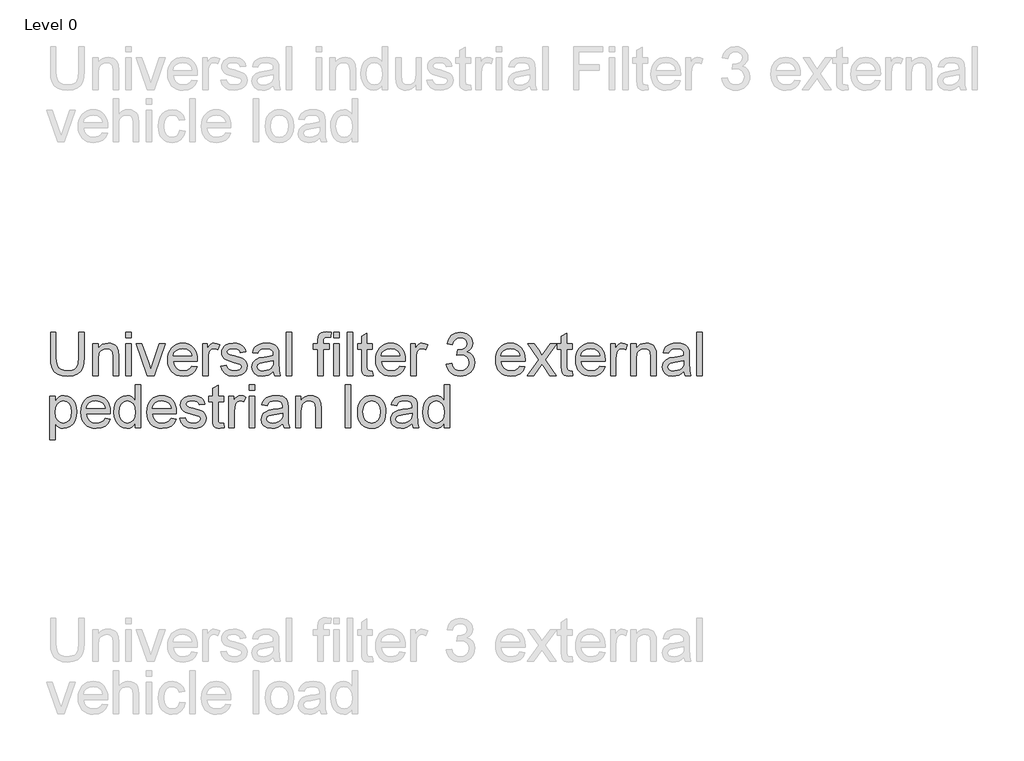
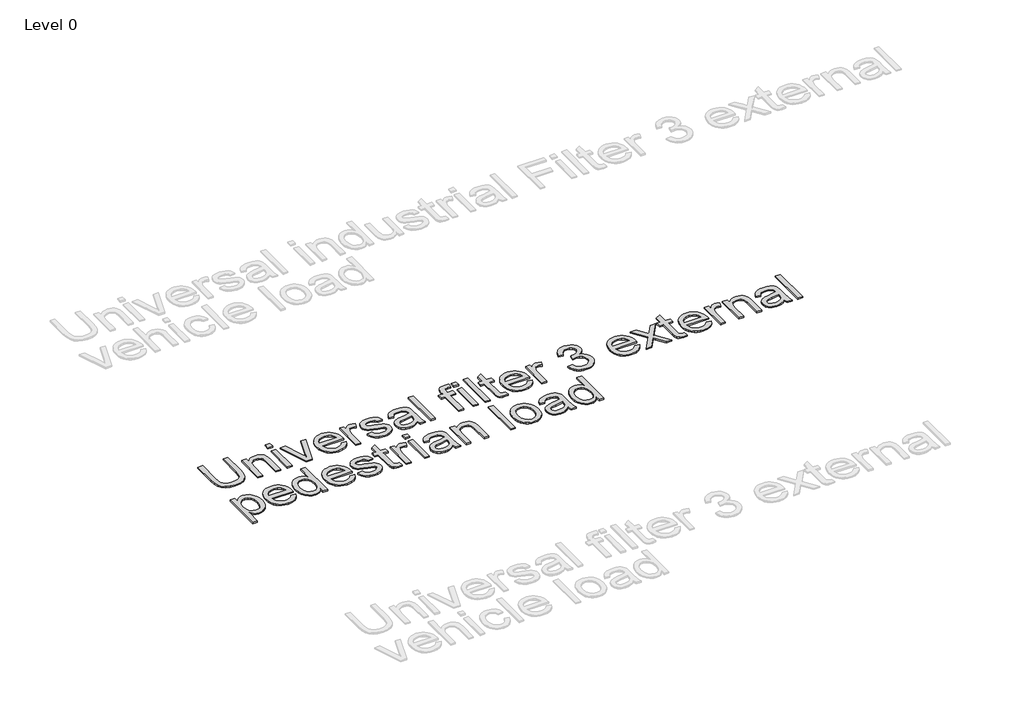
# One storey, part 4 of 10: 1 proxy.
"""IFC4 building model written with IfcOpenShell, lengths in millimetres."""

from ifc_helpers import new_model, si_unit, origin, origin_with_axes, place, context, project, spatial, polyline, outline, extrude, element, save

model = new_model("IFC4")

# Units and contexts
model_context = context("Model", 3, world=origin())
ifc_project = project(units=[si_unit("LENGTHUNIT", "METRE", prefix="MILLI")], contexts=[model_context])

# Site, building, storey
site = spatial("IfcSite", under=ifc_project)
building = spatial("IfcBuilding", under=site)
storey = spatial("IfcBuildingStorey", under=building, Name="Level 0", Elevation=0.0)

# Proxy
placement = place(None, origin())
element("IfcBuildingElementProxy", 1, Name="300mm Arial", ObjectType="300mm Arial", at=placement, inside=storey, context=model_context, shape_type="SweptSolid", body=[
    extrude(outline(polyline([(-15184.5419373, 6728.4409706), (-15146.870821, 6728.4409706), (-15146.870821, 6554.5799397), (-15149.4276009, 6513.8645999), (-15157.0979405, 6482.5118569), (-15171.4269442, 6458.3236157), (-15193.9597164, 6439.1017814), (-15224.7514394, 6426.5478084), (-15263.8572955, 6422.3631507), (-15302.1078259, 6426.0051824), (-15332.6880168, 6436.9312777), (-15355.6070651, 6454.7643574), (-15370.8741679, 6479.1273425), (-15379.4550154, 6511.8044607), (-15382.3152979, 6554.5799397), (-15382.3152979, 6728.4409706), (-15344.6441816, 6728.4409706), (-15344.6441816, 6555.9043149), (-15342.7863776, 6522.0499743), (-15337.2129653, 6498.4779355), (-15327.1146046, 6482.1531719), (-15311.6819549, 6470.0406572), (-15291.5588097, 6462.5358645), (-15267.3889627, 6460.034267), (-15229.0740529, 6464.9822798), (-15214.7312536, 6471.1672958), (-15203.5982247, 6479.8263183), (-15195.261099, 6492.0032123), (-15189.3060092, 6508.7418431), (-15184.5419373, 6555.9043149), (-15184.5419373, 6728.4409706)])), origin_with_axes(), (0.0, 0.0, 1.0), 10.0),
    extrude(outline(polyline([(-15085.655257, 6427.0720402), (-15085.655257, 6648.3898485), (-15047.9841407, 6648.3898485), (-15047.9841407, 6617.4877609), (-15034.8967388, 6633.0675634), (-15019.1789805, 6644.1959938), (-15000.830866, 6650.873052), (-14979.8523952, 6653.098738), (-14961.2835515, 6651.3053133), (-14944.2782063, 6645.9250391), (-14930.0963554, 6637.6293001), (-14919.9979946, 6627.089481), (-14908.7040174, 6599.3879667), (-14906.7174546, 6562.9676492), (-14906.7174546, 6427.0720402), (-14944.3885709, 6427.0720402), (-14944.3885709, 6557.8908777), (-14948.7295784, 6591.2209864), (-14954.735252, 6601.1446033), (-14964.0702576, 6608.842534), (-14976.0356195, 6613.7813498), (-14989.9323619, 6615.4276217), (-15011.9960846, 6611.7304077), (-15030.8040516, 6600.6387655), (-15038.3203406, 6591.5842699), (-15043.6891184, 6579.2096393), (-15047.9841407, 6544.4999731), (-15047.9841407, 6427.0720402), (-15085.655257, 6427.0720402)])), origin_with_axes(), (0.0, 0.0, 1.0), 10.0),
    extrude(outline(polyline([(-14854.9196697, 6690.7698543), (-14854.9196697, 6728.4409706), (-14817.2485534, 6728.4409706), (-14817.2485534, 6690.7698543), (-14854.9196697, 6690.7698543)])), origin_with_axes(), (0.0, 0.0, 1.0), 10.0),
    extrude(outline(polyline([(-14854.9196697, 6427.0720402), (-14854.9196697, 6648.3898485), (-14817.2485534, 6648.3898485), (-14817.2485534, 6427.0720402), (-14854.9196697, 6427.0720402)])), origin_with_axes(), (0.0, 0.0, 1.0), 10.0),
    extrude(outline(polyline([(-14706.4424964, 6427.0720402), (-14784.2863266, 6648.3898485), (-14744.4079183, 6648.3898485), (-14697.2454465, 6515.8051774), (-14683.0452015, 6471.2178796), (-14669.1392621, 6513.3035799), (-14621.6824847, 6648.3898485), (-14581.8040764, 6648.3898485), (-14658.6914134, 6427.0720402), (-14706.4424964, 6427.0720402)])), origin_with_axes(), (0.0, 0.0, 1.0), 10.0),
    extrude(outline(polyline([(-14393.8899533, 6492.9964937), (-14356.954601, 6488.2876042), (-14370.2627322, 6460.4573313), (-14391.4987203, 6439.6536044), (-14420.1843189, 6426.6857641), (-14455.8412813, 6422.3631507), (-14479.2155836, 6424.2278525), (-14500.042303, 6429.8219581), (-14518.3214397, 6439.1454674), (-14534.0529935, 6452.1983805), (-14546.7035356, 6468.6174138), (-14555.7396371, 6488.0392838), (-14561.161298, 6510.4639907), (-14562.9685183, 6535.8915344), (-14561.1429039, 6562.1813015), (-14555.6660607, 6585.3532686), (-14546.5379887, 6605.4074359), (-14533.7586879, 6622.3438032), (-14518.0685208, 6635.7990872), (-14500.2078499, 6645.4100043), (-14480.1766753, 6651.1765546), (-14457.9749969, 6653.098738), (-14436.4883891, 6651.1811531), (-14417.057322, 6645.4283984), (-14399.6817955, 6635.8404739), (-14384.3618096, 6622.4173796), (-14371.8561211, 6605.5178005), (-14362.9234864, 6585.5004214), (-14357.5639055, 6562.3652424), (-14355.7773786, 6536.1122636), (-14355.9981078, 6525.9587205), (-14525.297402, 6525.9587205), (-14518.7766936, 6497.7605656), (-14503.6291525, 6477.0304151), (-14481.7677649, 6464.283304), (-14455.1055173, 6460.034267), (-14435.0559486, 6462.0024356), (-14418.170165, 6467.9069417), (-14404.4481666, 6478.115667), (-14393.8899533, 6492.9964937)]), holes=[polyline([(-14525.297402, 6563.6298368), (-14393.4484949, 6563.6298368), (-14398.5436605, 6583.5322527), (-14408.5316567, 6597.769286), (-14430.4942118, 6611.0130378), (-14458.1221497, 6615.4276217), (-14483.5152044, 6611.9051516), (-14504.5120693, 6601.3377413), (-14519.1077874, 6584.865825), (-14525.297402, 6563.6298368)])]), origin_with_axes(), (0.0, 0.0, 1.0), 10.0),
    extrude(outline(polyline([(-14318.1062623, 6427.0720402), (-14318.1062623, 6648.3898485), (-14285.1440355, 6648.3898485), (-14285.1440355, 6615.6483509), (-14272.9671415, 6634.6310619), (-14261.7467406, 6645.8146745), (-14250.4895516, 6651.2777222), (-14238.2022929, 6653.098738), (-14219.4403112, 6650.1924703), (-14200.3840238, 6641.473667), (-14212.9655881, 6607.7020998), (-14226.2093399, 6613.4962413), (-14239.4530917, 6615.4276217), (-14250.7010837, 6613.5698177), (-14260.7534593, 6607.9964054), (-14268.8744543, 6599.1304493), (-14274.3283049, 6587.3950137), (-14278.9084357, 6566.3521636), (-14280.435146, 6543.3963271), (-14280.435146, 6427.0720402), (-14318.1062623, 6427.0720402)])), origin_with_axes(), (0.0, 0.0, 1.0), 10.0),
    extrude(outline(polyline([(-14190.9662448, 6492.9964937), (-14153.2951285, 6497.7053833), (-14147.3538342, 6481.5921519), (-14135.8575219, 6469.7463516), (-14118.732615, 6462.4622881), (-14095.9055372, 6460.034267), (-14073.3543709, 6462.259953), (-14057.4986569, 6468.9370112), (-14048.117666, 6478.6123077), (-14044.9906691, 6489.8327086), (-14048.1360601, 6499.4344286), (-14057.5722333, 6506.7552804), (-14096.3469956, 6517.4974346), (-14153.0743993, 6535.9283226), (-14167.4309941, 6545.1897518), (-14177.8328575, 6557.4494193), (-14184.1512308, 6571.9255758), (-14186.2573552, 6587.8364721), (-14184.5650981, 6602.4321902), (-14179.4883265, 6615.9058683), (-14171.4868931, 6627.7240774), (-14161.0206504, 6637.3533886), (-14137.0715325, 6648.5002131), (-14104.6611287, 6653.098738), (-14080.1417937, 6651.250131), (-14058.8230321, 6645.7043099), (-14041.6797311, 6637.0039007), (-14029.6867781, 6625.6915294), (-14021.740527, 6610.9302643), (-14016.7373319, 6591.883174), (-14054.4084482, 6587.1742845), (-14059.1633229, 6599.0292818), (-14068.571905, 6607.9596172), (-14082.7261647, 6613.5606206), (-14101.7180727, 6615.4276217), (-14123.3495341, 6613.6433941), (-14137.7705083, 6608.290711), (-14145.8823063, 6600.5651891), (-14148.5862389, 6591.6624448), (-14144.0980786, 6580.6995614), (-14130.0449864, 6572.3854283), (-14097.5977944, 6564.3656008), (-14042.3051305, 6546.6336886), (-14027.7002153, 6538.1540086), (-14016.6269673, 6526.5473317), (-14009.6464064, 6511.7768696), (-14007.3195528, 6493.8058341), (-14010.0510766, 6475.2277934), (-14018.245648, 6457.7533986), (-14031.5905674, 6442.7530102), (-14049.773135, 6431.5969887), (-14071.7356901, 6424.6716102), (-14096.420572, 6422.3631507), (-14134.404388, 6426.8145228), (-14162.1242963, 6440.1686392), (-14180.6287607, 6462.2783471), (-14190.9662448, 6492.9964937)])), origin_with_axes(), (0.0, 0.0, 1.0), 10.0),
    extrude(outline(polyline([(-13823.6728608, 6455.3253774), (-13841.6714874, 6439.8927277), (-13860.2035429, 6429.794367), (-13879.6920916, 6424.2209547), (-13900.5601978, 6422.3631507), (-13932.0416995, 6426.8329169), (-13955.2642505, 6440.2422156), (-13969.5840571, 6460.6044841), (-13974.357326, 6485.9331594), (-13972.5547042, 6501.5497501), (-13967.1468389, 6515.731601), (-13958.8051147, 6527.8717069), (-13948.2009161, 6537.3630624), (-13921.8237771, 6549.7238974), (-13889.2294323, 6555.3892801), (-13850.7121874, 6561.3489684), (-13823.89359, 6568.3387263), (-13823.6728608, 6576.7264358), (-13826.2664288, 6593.538643), (-13834.047133, 6604.5383147), (-13851.4479514, 6612.705295), (-13875.6913749, 6615.4276217), (-13898.1321766, 6613.6158029), (-13913.8039496, 6608.1803464), (-13924.4909216, 6598.1279709), (-13931.9773202, 6582.465395), (-13969.6484365, 6587.1742845), (-13963.109334, 6607.7756762), (-13953.3512641, 6623.962484), (-13939.4637188, 6636.3417132), (-13920.5361901, 6645.5203689), (-13897.3872156, 6651.2041458), (-13870.8353326, 6653.098738), (-13845.3687014, 6651.424875), (-13825.181177, 6646.4032857), (-13809.9600594, 6638.8525078), (-13799.3926491, 6629.5910785), (-13792.3844971, 6618.1407514), (-13787.8411545, 6604.0232799), (-13786.0017445, 6571.0610531), (-13786.0017445, 6524.1928869), (-13784.0887581, 6458.74668), (-13776.5839654, 6427.0720402), (-13814.2550817, 6427.0720402), (-13823.6728608, 6455.3253774)]), holes=[polyline([(-13823.6728608, 6530.66761), (-13884.4469664, 6519.1161154), (-13916.8573702, 6513.0092743), (-13931.5358618, 6503.0764604), (-13936.6862097, 6488.5819098), (-13933.8811095, 6477.379903), (-13925.4658088, 6468.2012473), (-13911.6242488, 6462.076012), (-13892.5403703, 6460.034267), (-13872.3068605, 6462.2875442), (-13854.4277956, 6469.0473758), (-13839.933245, 6479.0077809), (-13829.8532783, 6490.8627782), (-13825.3835121, 6503.0764604), (-13823.89359, 6519.9990322), (-13823.6728608, 6530.66761)])]), origin_with_axes(), (0.0, 0.0, 1.0), 10.0),
    extrude(outline(polyline([(-13734.2039596, 6427.0720402), (-13734.2039596, 6728.4409706), (-13696.5328432, 6728.4409706), (-13696.5328432, 6427.0720402), (-13734.2039596, 6427.0720402)])), origin_with_axes(), (0.0, 0.0, 1.0), 10.0),
    extrude(outline(polyline([(-13512.8861513, 6427.0720402), (-13512.8861513, 6610.7187322), (-13545.848378, 6610.7187322), (-13545.848378, 6648.3898485), (-13512.8861513, 6648.3898485), (-13512.8861513, 6670.6834974), (-13508.9130257, 6702.1006198), (-13501.3346566, 6714.6270017), (-13489.6360092, 6724.5414215), (-13473.2652604, 6730.9977505), (-13451.6705873, 6733.1498602), (-13417.3104089, 6729.0295818), (-13422.8286388, 6693.7129103), (-13444.5336766, 6695.4787439), (-13458.8534832, 6693.9152454), (-13468.2620652, 6689.22475), (-13473.4767925, 6680.2668234), (-13475.215035, 6665.9010315), (-13475.215035, 6648.3898485), (-13432.8350291, 6648.3898485), (-13432.8350291, 6610.7187322), (-13475.215035, 6610.7187322), (-13475.215035, 6427.0720402), (-13512.8861513, 6427.0720402)])), origin_with_axes(), (0.0, 0.0, 1.0), 10.0),
    extrude(outline(polyline([(-13399.8728023, 6427.0720402), (-13399.8728023, 6648.3898485), (-13362.201686, 6648.3898485), (-13362.201686, 6427.0720402), (-13399.8728023, 6427.0720402)])), origin_with_axes(), (0.0, 0.0, 1.0), 10.0),
    extrude(outline(polyline([(-13399.8728023, 6690.7698543), (-13399.8728023, 6728.4409706), (-13362.201686, 6728.4409706), (-13362.201686, 6690.7698543), (-13399.8728023, 6690.7698543)])), origin_with_axes(), (0.0, 0.0, 1.0), 10.0),
    extrude(outline(polyline([(-13305.6950116, 6427.0720402), (-13305.6950116, 6728.4409706), (-13268.0238953, 6728.4409706), (-13268.0238953, 6427.0720402), (-13305.6950116, 6427.0720402)])), origin_with_axes(), (0.0, 0.0, 1.0), 10.0),
    extrude(outline(polyline([(-13131.4660987, 6458.4891626), (-13126.7572091, 6425.9683942), (-13154.93697, 6422.3631507), (-13173.01837, 6423.9266491), (-13186.5012451, 6428.6171446), (-13196.0293888, 6435.8460258), (-13202.2465945, 6445.0246816), (-13205.6678971, 6460.7884251), (-13206.8083313, 6487.7725694), (-13206.8083313, 6610.7187322), (-13235.0616685, 6610.7187322), (-13235.0616685, 6648.3898485), (-13206.8083313, 6648.3898485), (-13206.8083313, 6702.1741962), (-13169.137215, 6724.3206923), (-13169.137215, 6648.3898485), (-13131.4660987, 6648.3898485), (-13131.4660987, 6610.7187322), (-13169.137215, 6610.7187322), (-13169.137215, 6488.8762154), (-13167.1506522, 6469.452046), (-13160.7127173, 6462.5726527), (-13147.8736356, 6460.034267), (-13131.4660987, 6458.4891626)])), origin_with_axes(), (0.0, 0.0, 1.0), 10.0),
    extrude(outline(polyline([(-12938.843086, 6492.9964937), (-12901.9077337, 6488.2876042), (-12915.2158648, 6460.4573313), (-12936.451853, 6439.6536044), (-12965.1374516, 6426.6857641), (-13000.794414, 6422.3631507), (-13024.1687162, 6424.2278525), (-13044.9954357, 6429.8219581), (-13063.2745723, 6439.1454674), (-13079.0061261, 6452.1983805), (-13091.6566683, 6468.6174138), (-13100.6927698, 6488.0392838), (-13106.1144307, 6510.4639907), (-13107.921651, 6535.8915344), (-13106.0960366, 6562.1813015), (-13100.6191934, 6585.3532686), (-13091.4911214, 6605.4074359), (-13078.7118205, 6622.3438032), (-13063.0216535, 6635.7990872), (-13045.1609826, 6645.4100043), (-13025.129808, 6651.1765546), (-13002.9281295, 6653.098738), (-12981.4415218, 6651.1811531), (-12962.0104546, 6645.4283984), (-12944.6349281, 6635.8404739), (-12929.3149423, 6622.4173796), (-12916.8092537, 6605.5178005), (-12907.876619, 6585.5004214), (-12902.5170382, 6562.3652424), (-12900.7305113, 6536.1122636), (-12900.9512405, 6525.9587205), (-13070.2505347, 6525.9587205), (-13063.7298263, 6497.7605656), (-13048.5822851, 6477.0304151), (-13026.7208976, 6464.283304), (-13000.05865, 6460.034267), (-12980.0090812, 6462.0024356), (-12963.1232977, 6467.9069417), (-12949.4012992, 6478.115667), (-12938.843086, 6492.9964937)]), holes=[polyline([(-13070.2505347, 6563.6298368), (-12938.4016276, 6563.6298368), (-12943.4967932, 6583.5322527), (-12953.4847894, 6597.769286), (-12975.4473445, 6611.0130378), (-13003.0752823, 6615.4276217), (-13028.4683371, 6611.9051516), (-13049.4652019, 6601.3377413), (-13064.0609201, 6584.865825), (-13070.2505347, 6563.6298368)])]), origin_with_axes(), (0.0, 0.0, 1.0), 10.0),
    extrude(outline(polyline([(-12863.059395, 6427.0720402), (-12863.059395, 6648.3898485), (-12830.0971682, 6648.3898485), (-12830.0971682, 6615.6483509), (-12817.9202742, 6634.6310619), (-12806.6998733, 6645.8146745), (-12795.4426843, 6651.2777222), (-12783.1554256, 6653.098738), (-12764.3934439, 6650.1924703), (-12745.3371565, 6641.473667), (-12757.9187208, 6607.7020998), (-12771.1624726, 6613.4962413), (-12784.4062244, 6615.4276217), (-12795.6542164, 6613.5698177), (-12805.7065919, 6607.9964054), (-12813.827587, 6599.1304493), (-12819.2814376, 6587.3950137), (-12823.8615684, 6566.3521636), (-12825.3882787, 6543.3963271), (-12825.3882787, 6427.0720402), (-12863.059395, 6427.0720402)])), origin_with_axes(), (0.0, 0.0, 1.0), 10.0),
    extrude(outline(polyline([(-12613.4882494, 6507.1231623), (-12575.8171331, 6511.8320519), (-12567.3834384, 6488.1588455), (-12555.0318004, 6472.1743728), (-12538.1552139, 6463.0692934), (-12516.1466735, 6460.034267), (-12490.3213575, 6464.2097276), (-12470.3821533, 6476.7361095), (-12457.6350422, 6495.4245149), (-12453.3860051, 6518.0860458), (-12457.598254, 6539.5979455), (-12470.2350005, 6557.0447491), (-12489.3648643, 6568.6054408), (-12513.0564648, 6572.4590047), (-12539.470392, 6568.3387263), (-12535.2765373, 6606.0098427), (-12529.2432726, 6605.5683843), (-12506.6737121, 6608.2723169), (-12486.4953847, 6616.3841149), (-12472.2583515, 6630.1061133), (-12467.5126738, 6649.6406473), (-12470.9523704, 6665.9102285), (-12481.2714604, 6679.1079951), (-12497.0168098, 6687.8543895), (-12516.7352847, 6690.7698543), (-12536.4905479, 6687.8267984), (-12552.6405674, 6678.9976305), (-12564.4311854, 6664.2823507), (-12571.1082436, 6643.680959), (-12608.7793599, 6648.3898485), (-12597.6877178, 6682.216598), (-12577.9508487, 6707.4716969), (-12550.9483103, 6723.1986522), (-12518.0596599, 6728.4409706), (-12494.3772565, 6725.8565996), (-12472.6262335, 6718.1034866), (-12454.287316, 6705.8714102), (-12440.8412291, 6689.8501494), (-12432.5914754, 6671.3916702), (-12429.8415575, 6651.8479393), (-12432.4535196, 6633.6377805), (-12440.2894061, 6617.1198789), (-12453.2388524, 6603.0483926), (-12471.1914937, 6592.1774796), (-12447.6102578, 6582.649336), (-12430.1358631, 6566.42574), (-12419.3201324, 6544.3896085), (-12415.7148888, 6517.4238582), (-12417.5175106, 6498.3123886), (-12422.9253759, 6480.7092351), (-12431.9384848, 6464.6143978), (-12444.5568373, 6450.0278767), (-12459.9297061, 6437.9245591), (-12477.2063643, 6429.2793322), (-12496.3868119, 6424.092196), (-12517.4710487, 6422.3631507), (-12536.5273361, 6423.8392772), (-12553.8913662, 6428.2676567), (-12569.5631392, 6435.6482892), (-12583.542655, 6445.9811747), (-12595.2642951, 6458.659308), (-12604.1624409, 6473.0756837), (-12610.2370923, 6489.2303018), (-12613.4882494, 6507.1231623)])), origin_with_axes(), (0.0, 0.0, 1.0), 10.0),
    extrude(outline(polyline([(-12100.6607482, 6492.9964937), (-12063.7253959, 6488.2876042), (-12077.033527, 6460.4573313), (-12098.2695152, 6439.6536044), (-12126.9551138, 6426.6857641), (-12162.6120762, 6422.3631507), (-12185.9863784, 6424.2278525), (-12206.8130979, 6429.8219581), (-12225.0922345, 6439.1454674), (-12240.8237883, 6452.1983805), (-12253.4743304, 6468.6174138), (-12262.510432, 6488.0392838), (-12267.9320929, 6510.4639907), (-12269.7393132, 6535.8915344), (-12267.9136988, 6562.1813015), (-12262.4368556, 6585.3532686), (-12253.3087835, 6605.4074359), (-12240.5294827, 6622.3438032), (-12224.8393156, 6635.7990872), (-12206.9786448, 6645.4100043), (-12186.9474701, 6651.1765546), (-12164.7457917, 6653.098738), (-12143.259184, 6651.1811531), (-12123.8281168, 6645.4283984), (-12106.4525903, 6635.8404739), (-12091.1326045, 6622.4173796), (-12078.6269159, 6605.5178005), (-12069.6942812, 6585.5004214), (-12064.3347004, 6562.3652424), (-12062.5481735, 6536.1122636), (-12062.7689027, 6525.9587205), (-12232.0681968, 6525.9587205), (-12225.5474885, 6497.7605656), (-12210.3999473, 6477.0304151), (-12188.5385598, 6464.283304), (-12161.8763122, 6460.034267), (-12141.8267434, 6462.0024356), (-12124.9409599, 6467.9069417), (-12111.2189614, 6478.115667), (-12100.6607482, 6492.9964937)]), holes=[polyline([(-12232.0681968, 6563.6298368), (-12100.2192898, 6563.6298368), (-12105.3144554, 6583.5322527), (-12115.3024516, 6597.769286), (-12137.2650067, 6611.0130378), (-12164.8929445, 6615.4276217), (-12190.2859992, 6611.9051516), (-12211.2828641, 6601.3377413), (-12225.8785823, 6584.865825), (-12232.0681968, 6563.6298368)])]), origin_with_axes(), (0.0, 0.0, 1.0), 10.0),
    extrude(outline(polyline([(-12048.4215049, 6427.0720402), (-11967.9289243, 6538.3195555), (-12043.7126153, 6648.3898485), (-11998.3895535, 6648.3898485), (-11961.8220832, 6595.4148412), (-11944.7523586, 6570.3988655), (-11929.9635024, 6590.8531045), (-11888.3192606, 6648.3898485), (-11842.9961988, 6648.3898485), (-11922.6058625, 6538.3195555), (-11845.9392547, 6427.0720402), (-11891.2623165, 6427.0720402), (-11937.3947187, 6493.9529869), (-11945.8560046, 6506.1666692), (-12003.0984431, 6427.0720402), (-12048.4215049, 6427.0720402)])), origin_with_axes(), (0.0, 0.0, 1.0), 10.0),
    extrude(outline(polyline([(-11732.9259058, 6458.4891626), (-11728.2170163, 6425.9683942), (-11756.3967771, 6422.3631507), (-11774.4781771, 6423.9266491), (-11787.9610523, 6428.6171446), (-11797.4891959, 6435.8460258), (-11803.7064017, 6445.0246816), (-11807.1277042, 6460.7884251), (-11808.2681384, 6487.7725694), (-11808.2681384, 6610.7187322), (-11836.5214756, 6610.7187322), (-11836.5214756, 6648.3898485), (-11808.2681384, 6648.3898485), (-11808.2681384, 6702.1741962), (-11770.5970221, 6724.3206923), (-11770.5970221, 6648.3898485), (-11732.9259058, 6648.3898485), (-11732.9259058, 6610.7187322), (-11770.5970221, 6610.7187322), (-11770.5970221, 6488.8762154), (-11768.6104593, 6469.452046), (-11762.1725244, 6462.5726527), (-11749.3334428, 6460.034267), (-11732.9259058, 6458.4891626)])), origin_with_axes(), (0.0, 0.0, 1.0), 10.0),
    extrude(outline(polyline([(-11540.3028931, 6492.9964937), (-11503.3675408, 6488.2876042), (-11516.675672, 6460.4573313), (-11537.9116602, 6439.6536044), (-11566.5972587, 6426.6857641), (-11602.2542211, 6422.3631507), (-11625.6285234, 6424.2278525), (-11646.4552428, 6429.8219581), (-11664.7343795, 6439.1454674), (-11680.4659333, 6452.1983805), (-11693.1164754, 6468.6174138), (-11702.1525769, 6488.0392838), (-11707.5742378, 6510.4639907), (-11709.3814581, 6535.8915344), (-11707.5558437, 6562.1813015), (-11702.0790005, 6585.3532686), (-11692.9509285, 6605.4074359), (-11680.1716277, 6622.3438032), (-11664.4814606, 6635.7990872), (-11646.6207897, 6645.4100043), (-11626.5896151, 6651.1765546), (-11604.3879367, 6653.098738), (-11582.9013289, 6651.1811531), (-11563.4702618, 6645.4283984), (-11546.0947353, 6635.8404739), (-11530.7747494, 6622.4173796), (-11518.2690609, 6605.5178005), (-11509.3364262, 6585.5004214), (-11503.9768454, 6562.3652424), (-11502.1903184, 6536.1122636), (-11502.4110476, 6525.9587205), (-11671.7103418, 6525.9587205), (-11665.1896334, 6497.7605656), (-11650.0420923, 6477.0304151), (-11628.1807047, 6464.283304), (-11601.5184571, 6460.034267), (-11581.4688884, 6462.0024356), (-11564.5831048, 6467.9069417), (-11550.8611064, 6478.115667), (-11540.3028931, 6492.9964937)]), holes=[polyline([(-11671.7103418, 6563.6298368), (-11539.8614347, 6563.6298368), (-11544.9566004, 6583.5322527), (-11554.9445965, 6597.769286), (-11576.9071516, 6611.0130378), (-11604.5350895, 6615.4276217), (-11629.9281442, 6611.9051516), (-11650.9250091, 6601.3377413), (-11665.5207272, 6584.865825), (-11671.7103418, 6563.6298368)])]), origin_with_axes(), (0.0, 0.0, 1.0), 10.0),
    extrude(outline(polyline([(-11464.5192021, 6427.0720402), (-11464.5192021, 6648.3898485), (-11431.5569753, 6648.3898485), (-11431.5569753, 6615.6483509), (-11419.3800813, 6634.6310619), (-11408.1596805, 6645.8146745), (-11396.9024914, 6651.2777222), (-11384.6152328, 6653.098738), (-11365.853251, 6650.1924703), (-11346.7969637, 6641.473667), (-11359.3785279, 6607.7020998), (-11372.6222797, 6613.4962413), (-11385.8660315, 6615.4276217), (-11397.1140235, 6613.5698177), (-11407.1663991, 6607.9964054), (-11415.2873941, 6599.1304493), (-11420.7412447, 6587.3950137), (-11425.3213755, 6566.3521636), (-11426.8480858, 6543.3963271), (-11426.8480858, 6427.0720402), (-11464.5192021, 6427.0720402)])), origin_with_axes(), (0.0, 0.0, 1.0), 10.0),
    extrude(outline(polyline([(-11323.252516, 6427.0720402), (-11323.252516, 6648.3898485), (-11285.5813997, 6648.3898485), (-11285.5813997, 6617.4877609), (-11272.4939977, 6633.0675634), (-11256.7762394, 6644.1959938), (-11238.4281249, 6650.873052), (-11217.4496542, 6653.098738), (-11198.8808104, 6651.3053133), (-11181.8754652, 6645.9250391), (-11167.6936143, 6637.6293001), (-11157.5952535, 6627.089481), (-11146.3012763, 6599.3879667), (-11144.3147135, 6562.9676492), (-11144.3147135, 6427.0720402), (-11181.9858298, 6427.0720402), (-11181.9858298, 6557.8908777), (-11186.3268374, 6591.2209864), (-11192.3325109, 6601.1446033), (-11201.6675166, 6608.842534), (-11213.6328785, 6613.7813498), (-11227.5296208, 6615.4276217), (-11249.5933435, 6611.7304077), (-11268.4013105, 6600.6387655), (-11275.9175995, 6591.5842699), (-11281.2863774, 6579.2096393), (-11285.5813997, 6544.4999731), (-11285.5813997, 6427.0720402), (-11323.252516, 6427.0720402)])), origin_with_axes(), (0.0, 0.0, 1.0), 10.0),
    extrude(outline(polyline([(-10951.2502424, 6455.3253774), (-10969.2488691, 6439.8927277), (-10987.7809246, 6429.794367), (-11007.2694733, 6424.2209547), (-11028.1375794, 6422.3631507), (-11059.6190812, 6426.8329169), (-11082.8416321, 6440.2422156), (-11097.1614388, 6460.6044841), (-11101.9347077, 6485.9331594), (-11100.1320859, 6501.5497501), (-11094.7242206, 6515.731601), (-11086.3824963, 6527.8717069), (-11075.7782978, 6537.3630624), (-11049.4011588, 6549.7238974), (-11016.806814, 6555.3892801), (-10978.2895691, 6561.3489684), (-10951.4709716, 6568.3387263), (-10951.2502424, 6576.7264358), (-10953.8438105, 6593.538643), (-10961.6245147, 6604.5383147), (-10979.0253331, 6612.705295), (-11003.2687566, 6615.4276217), (-11025.7095583, 6613.6158029), (-11041.3813313, 6608.1803464), (-11052.0683032, 6598.1279709), (-11059.5547018, 6582.465395), (-11097.2258181, 6587.1742845), (-11090.6867157, 6607.7756762), (-11080.9286457, 6623.962484), (-11067.0411004, 6636.3417132), (-11048.1135718, 6645.5203689), (-11024.9645972, 6651.2041458), (-10998.4127142, 6653.098738), (-10972.9460831, 6651.424875), (-10952.7585586, 6646.4032857), (-10937.5374411, 6638.8525078), (-10926.9700308, 6629.5910785), (-10919.9618788, 6618.1407514), (-10915.4185361, 6604.0232799), (-10913.5791261, 6571.0610531), (-10913.5791261, 6524.1928869), (-10911.6661398, 6458.74668), (-10904.1613471, 6427.0720402), (-10941.8324634, 6427.0720402), (-10951.2502424, 6455.3253774)]), holes=[polyline([(-10951.2502424, 6530.66761), (-11012.024348, 6519.1161154), (-11044.4347518, 6513.0092743), (-11059.1132434, 6503.0764604), (-11064.2635914, 6488.5819098), (-11061.4584911, 6477.379903), (-11053.0431905, 6468.2012473), (-11039.2016304, 6462.076012), (-11020.1177519, 6460.034267), (-10999.8842422, 6462.2875442), (-10982.0051772, 6469.0473758), (-10967.5106266, 6479.0077809), (-10957.43066, 6490.8627782), (-10952.9608937, 6503.0764604), (-10951.4709716, 6519.9990322), (-10951.2502424, 6530.66761)])]), origin_with_axes(), (0.0, 0.0, 1.0), 10.0),
    extrude(outline(polyline([(-10861.7813412, 6427.0720402), (-10861.7813412, 6728.4409706), (-10824.1102249, 6728.4409706), (-10824.1102249, 6427.0720402), (-10861.7813412, 6427.0720402)])), origin_with_axes(), (0.0, 0.0, 1.0), 10.0),
    extrude(outline(polyline([(-15387.0241875, 5976.387575), (-15387.0241875, 6282.465395), (-15349.3530712, 6282.465395), (-15349.3530712, 6245.5300426), (-15337.0658125, 6263.7493985), (-15323.3070259, 6276.763224), (-15307.2673709, 6284.5715194), (-15288.1375072, 6287.1742845), (-15262.661679, 6283.5322527), (-15240.3864242, 6272.6061575), (-15222.2498418, 6255.0581863), (-15209.190031, 6231.5505268), (-15201.2989622, 6203.7938303), (-15198.668606, 6173.498748), (-15201.6392531, 6141.2814823), (-15210.5511944, 6112.467125), (-15225.1193214, 6088.5180071), (-15245.0585255, 6070.8964595), (-15268.2810765, 6060.0531377), (-15292.6992439, 6056.4386971), (-15310.0172888, 6058.8575212), (-15325.4775297, 6066.1139936), (-15338.7120845, 6077.06768), (-15349.3530712, 6090.5781463), (-15349.3530712, 5976.387575), (-15387.0241875, 5976.387575)]), holes=[polyline([(-15349.3530712, 6170.0406572), (-15345.2787781, 6136.2690901), (-15333.0558988, 6112.651066), (-15315.020484, 6098.7451266), (-15293.5085843, 6094.1098134), (-15271.6471967, 6098.9106735), (-15253.1519294, 6113.3132536), (-15240.5427741, 6137.7958004), (-15236.3397223, 6172.8365604), (-15240.4416065, 6206.4241866), (-15252.7472592, 6230.3733044), (-15270.7550829, 6244.7207023), (-15291.9634799, 6249.5031682), (-15313.2546504, 6244.4171996), (-15331.9522528, 6229.1592939), (-15345.0028666, 6204.2076975), (-15349.3530712, 6170.0406572)])]), origin_with_axes(), (0.0, 0.0, 1.0), 10.0),
    extrude(outline(polyline([(-15001.3367037, 6127.0720402), (-14964.4013514, 6122.3631507), (-14977.7094826, 6094.5328777), (-14998.9454708, 6073.7291509), (-15027.6310693, 6060.7613106), (-15063.2880317, 6056.4386971), (-15086.662334, 6058.303399), (-15107.4890535, 6063.8975046), (-15125.7681901, 6073.2210139), (-15141.4997439, 6086.2739269), (-15154.150286, 6102.6929602), (-15163.1863875, 6122.1148303), (-15168.6080484, 6144.5395372), (-15170.4152687, 6169.9670808), (-15168.5896543, 6196.2568479), (-15163.1128111, 6219.4288151), (-15153.9847391, 6239.4829823), (-15141.2054383, 6256.4193497), (-15125.5152712, 6269.8746337), (-15107.6546003, 6279.4855508), (-15087.6234257, 6285.2521011), (-15065.4217473, 6287.1742845), (-15043.9351395, 6285.2566996), (-15024.5040724, 6279.5039449), (-15007.1285459, 6269.9160204), (-14991.8085601, 6256.4929261), (-14979.3028715, 6239.5933469), (-14970.3702368, 6219.5759679), (-14965.010656, 6196.4407889), (-14963.224129, 6170.18781), (-14963.4448582, 6160.034267), (-15132.7441524, 6160.034267), (-15126.2234441, 6131.836112), (-15111.0759029, 6111.1059616), (-15089.2145153, 6098.3588505), (-15062.5522677, 6094.1098134), (-15042.502699, 6096.0779821), (-15025.6169154, 6101.9824881), (-15011.894917, 6112.1912135), (-15001.3367037, 6127.0720402)]), holes=[polyline([(-15132.7441524, 6197.7053833), (-15000.8952453, 6197.7053833), (-15005.990411, 6217.6077992), (-15015.9784072, 6231.8448324), (-15037.9409623, 6245.0885843), (-15065.5689001, 6249.5031682), (-15090.9619548, 6245.9806981), (-15111.9588197, 6235.4132878), (-15126.5545379, 6218.9413714), (-15132.7441524, 6197.7053833)])]), origin_with_axes(), (0.0, 0.0, 1.0), 10.0),
    extrude(outline(polyline([(-14788.9952161, 6061.1475867), (-14788.9952161, 6096.6849874), (-14800.2662008, 6079.0772354), (-14813.9192213, 6066.5002697), (-14829.9542778, 6058.9540903), (-14848.3713701, 6056.4386971), (-14872.7251582, 6060.0807289), (-14895.0188071, 6071.0068241), (-14913.8911535, 6088.4536278), (-14927.9810339, 6111.6577846), (-14936.7550195, 6139.6811956), (-14939.6796814, 6171.5857616), (-14936.9849457, 6203.0948545), (-14928.9007389, 6231.5505268), (-14915.4362579, 6255.3340978), (-14896.6006997, 6272.8268867), (-14873.8196072, 6283.587435), (-14848.5185229, 6287.1742845), (-14830.087635, 6284.6083076), (-14813.7904626, 6276.9103768), (-14799.9764937, 6265.1105618), (-14788.9952161, 6250.2389322), (-14788.9952161, 6362.5165171), (-14751.3240998, 6362.5165171), (-14751.3240998, 6061.1475867), (-14788.9952161, 6061.1475867)]), holes=[polyline([(-14902.008565, 6171.7329144), (-14897.759528, 6137.6578446), (-14885.0124169, 6113.4236182), (-14866.4895584, 6098.9382646), (-14844.9132794, 6094.1098134), (-14823.3461974, 6098.7175354), (-14805.2923885, 6112.5407014), (-14793.0695092, 6135.8368287), (-14788.9952161, 6168.8634348), (-14793.1430856, 6204.9710527), (-14805.5866941, 6230.0054224), (-14824.1003555, 6244.6287318), (-14846.4583838, 6249.5031682), (-14868.255392, 6244.8218698), (-14886.1160629, 6230.7779746), (-14898.0354395, 6206.6541128), (-14902.008565, 6171.7329144)])]), origin_with_axes(), (0.0, 0.0, 1.0), 10.0),
    extrude(outline(polyline([(-14539.865529, 6127.0720402), (-14502.9301767, 6122.3631507), (-14516.2383079, 6094.5328777), (-14537.474296, 6073.7291509), (-14566.1598946, 6060.7613106), (-14601.816857, 6056.4386971), (-14625.1911592, 6058.303399), (-14646.0178787, 6063.8975046), (-14664.2970153, 6073.2210139), (-14680.0285692, 6086.2739269), (-14692.6791113, 6102.6929602), (-14701.7152128, 6122.1148303), (-14707.1368737, 6144.5395372), (-14708.944094, 6169.9670808), (-14707.1184796, 6196.2568479), (-14701.6416364, 6219.4288151), (-14692.5135644, 6239.4829823), (-14679.7342636, 6256.4193497), (-14664.0440965, 6269.8746337), (-14646.1834256, 6279.4855508), (-14626.152251, 6285.2521011), (-14603.9505726, 6287.1742845), (-14582.4639648, 6285.2566996), (-14563.0328976, 6279.5039449), (-14545.6573712, 6269.9160204), (-14530.3373853, 6256.4929261), (-14517.8316967, 6239.5933469), (-14508.899062, 6219.5759679), (-14503.5394812, 6196.4407889), (-14501.7529543, 6170.18781), (-14501.9736835, 6160.034267), (-14671.2729777, 6160.034267), (-14664.7522693, 6131.836112), (-14649.6047282, 6111.1059616), (-14627.7433406, 6098.3588505), (-14601.081093, 6094.1098134), (-14581.0315243, 6096.0779821), (-14564.1457407, 6101.9824881), (-14550.4237423, 6112.1912135), (-14539.865529, 6127.0720402)]), holes=[polyline([(-14671.2729777, 6197.7053833), (-14539.4240706, 6197.7053833), (-14544.5192362, 6217.6077992), (-14554.5072324, 6231.8448324), (-14576.4697875, 6245.0885843), (-14604.0977254, 6249.5031682), (-14629.4907801, 6245.9806981), (-14650.4876449, 6235.4132878), (-14665.0833631, 6218.9413714), (-14671.2729777, 6197.7053833)])]), origin_with_axes(), (0.0, 0.0, 1.0), 10.0),
    extrude(outline(polyline([(-14478.2085066, 6127.0720402), (-14440.5373903, 6131.7809297), (-14434.5960961, 6115.6676983), (-14423.0997837, 6103.8218981), (-14405.9748768, 6096.5378346), (-14383.147799, 6094.1098134), (-14360.5966327, 6096.3354995), (-14344.7409188, 6103.0125577), (-14335.3599279, 6112.6878542), (-14332.2329309, 6123.908255), (-14335.378322, 6133.5099751), (-14344.8144952, 6140.8308268), (-14383.5892574, 6151.5729811), (-14440.3166611, 6170.003869), (-14454.673256, 6179.2652983), (-14465.0751194, 6191.5249658), (-14471.3934926, 6206.0011223), (-14473.4996171, 6221.9120186), (-14471.8073599, 6236.5077367), (-14466.7305884, 6249.9814148), (-14458.729155, 6261.7996239), (-14448.2629122, 6271.4289351), (-14424.3137943, 6282.5757596), (-14391.9033905, 6287.1742845), (-14367.3840556, 6285.3256775), (-14346.0652939, 6279.7798564), (-14328.921993, 6271.0794472), (-14316.9290399, 6259.7670759), (-14308.9827888, 6245.0058108), (-14303.9795937, 6225.9587205), (-14341.65071, 6221.249831), (-14346.4055848, 6233.1048283), (-14355.8141668, 6242.0351637), (-14369.9684266, 6247.6361671), (-14388.9603346, 6249.5031682), (-14410.5917959, 6247.7189405), (-14425.0127701, 6242.3662575), (-14433.1245681, 6234.6407356), (-14435.8285008, 6225.7379913), (-14431.3403404, 6214.7751078), (-14417.2872482, 6206.4609748), (-14384.8400562, 6198.4411473), (-14329.5473924, 6180.7092351), (-14314.9424771, 6172.2295551), (-14303.8692291, 6160.6228782), (-14296.8886682, 6145.8524161), (-14294.5618146, 6127.8813806), (-14297.2933384, 6109.3033398), (-14305.4879099, 6091.8289451), (-14318.8328292, 6076.8285567), (-14337.0153969, 6065.6725352), (-14358.977952, 6058.7471566), (-14383.6628338, 6056.4386971), (-14421.6466498, 6060.8900693), (-14449.3665582, 6074.2441857), (-14467.8710225, 6096.3538936), (-14478.2085066, 6127.0720402)])), origin_with_axes(), (0.0, 0.0, 1.0), 10.0),
    extrude(outline(polyline([(-14172.1306866, 6092.564709), (-14167.4217971, 6060.0439407), (-14195.6015579, 6056.4386971), (-14213.682958, 6058.0021956), (-14227.1658331, 6062.692691), (-14236.6939768, 6069.9215722), (-14242.9111825, 6079.100228), (-14246.332485, 6094.8639715), (-14247.4729192, 6121.8481159), (-14247.4729192, 6244.7942787), (-14275.7262565, 6244.7942787), (-14275.7262565, 6282.465395), (-14247.4729192, 6282.465395), (-14247.4729192, 6336.2497427), (-14209.8018029, 6358.3962388), (-14209.8018029, 6282.465395), (-14172.1306866, 6282.465395), (-14172.1306866, 6244.7942787), (-14209.8018029, 6244.7942787), (-14209.8018029, 6122.9517619), (-14207.8152401, 6103.5275925), (-14201.3773052, 6096.6481992), (-14188.5382236, 6094.1098134), (-14172.1306866, 6092.564709)])), origin_with_axes(), (0.0, 0.0, 1.0), 10.0),
    extrude(outline(polyline([(-14134.4595703, 6061.1475867), (-14134.4595703, 6282.465395), (-14101.4973435, 6282.465395), (-14101.4973435, 6249.7238974), (-14089.3204495, 6268.7066083), (-14078.1000486, 6279.890221), (-14066.8428596, 6285.3532686), (-14054.555601, 6287.1742845), (-14035.7936192, 6284.2680167), (-14016.7373319, 6275.5492135), (-14029.3188961, 6241.7776463), (-14042.5626479, 6247.5717877), (-14055.8063997, 6249.5031682), (-14067.0543917, 6247.6453641), (-14077.1067673, 6242.0719519), (-14085.2277623, 6233.2059958), (-14090.6816129, 6221.4705602), (-14095.2617437, 6200.42771), (-14096.788454, 6177.4718735), (-14096.788454, 6061.1475867), (-14134.4595703, 6061.1475867)])), origin_with_axes(), (0.0, 0.0, 1.0), 10.0),
    extrude(outline(polyline([(-13993.1928842, 6324.8454008), (-13993.1928842, 6362.5165171), (-13955.5217679, 6362.5165171), (-13955.5217679, 6324.8454008), (-13993.1928842, 6324.8454008)])), origin_with_axes(), (0.0, 0.0, 1.0), 10.0),
    extrude(outline(polyline([(-13993.1928842, 6061.1475867), (-13993.1928842, 6282.465395), (-13955.5217679, 6282.465395), (-13955.5217679, 6061.1475867), (-13993.1928842, 6061.1475867)])), origin_with_axes(), (0.0, 0.0, 1.0), 10.0),
    extrude(outline(polyline([(-13757.7484072, 6089.4009239), (-13775.7470339, 6073.9682742), (-13794.2790894, 6063.8699134), (-13813.7676381, 6058.2965012), (-13834.6357442, 6056.4386971), (-13866.117246, 6060.9084634), (-13889.3397969, 6074.3177621), (-13903.6596036, 6094.6800305), (-13908.4328725, 6120.0087059), (-13906.6302507, 6135.6252966), (-13901.2223854, 6149.8071475), (-13892.8806611, 6161.9472533), (-13882.2764626, 6171.4386088), (-13855.8993236, 6183.7994439), (-13823.3049788, 6189.4648266), (-13784.7877339, 6195.4245149), (-13757.9691364, 6202.4142728), (-13757.7484072, 6210.8019823), (-13760.3419753, 6227.6141895), (-13768.1226795, 6238.6138611), (-13785.5234979, 6246.7808414), (-13809.7669214, 6249.5031682), (-13832.2077231, 6247.6913494), (-13847.8794961, 6242.2558929), (-13858.566468, 6232.2035174), (-13866.0528666, 6216.5409414), (-13903.7239829, 6221.249831), (-13897.1848805, 6241.8512227), (-13887.4268105, 6258.0380305), (-13873.5392652, 6270.4172596), (-13854.6117366, 6279.5959154), (-13831.462762, 6285.2796922), (-13804.910879, 6287.1742845), (-13779.4442479, 6285.5004214), (-13759.2567234, 6280.4788322), (-13744.0356059, 6272.9280542), (-13733.4681956, 6263.666625), (-13726.4600436, 6252.2162979), (-13721.9167009, 6238.0988263), (-13720.0772909, 6205.1365996), (-13720.0772909, 6158.2684334), (-13718.1643046, 6092.8222264), (-13710.6595119, 6061.1475867), (-13748.3306282, 6061.1475867), (-13757.7484072, 6089.4009239)]), holes=[polyline([(-13757.7484072, 6164.7431565), (-13818.5225129, 6153.1916619), (-13850.9329166, 6147.0848207), (-13865.6114082, 6137.1520069), (-13870.7617562, 6122.6574563), (-13867.956656, 6111.4554495), (-13859.5413553, 6102.2767937), (-13845.6997952, 6096.1515585), (-13826.6159167, 6094.1098134), (-13806.382407, 6096.3630906), (-13788.503342, 6103.1229223), (-13774.0087914, 6113.0833273), (-13763.9288248, 6124.9383246), (-13759.4590585, 6137.1520069), (-13757.9691364, 6154.0745786), (-13757.7484072, 6164.7431565)])]), origin_with_axes(), (0.0, 0.0, 1.0), 10.0),
    extrude(outline(polyline([(-13668.279506, 6061.1475867), (-13668.279506, 6282.465395), (-13630.6083897, 6282.465395), (-13630.6083897, 6251.5633074), (-13617.5209877, 6267.1431099), (-13601.8032295, 6278.2715402), (-13583.455115, 6284.9485984), (-13562.4766442, 6287.1742845), (-13543.9078005, 6285.3808598), (-13526.9024553, 6280.0005856), (-13512.7206044, 6271.7048466), (-13502.6222436, 6261.1650274), (-13491.3282663, 6233.4635132), (-13489.3417036, 6197.0431957), (-13489.3417036, 6061.1475867), (-13527.0128199, 6061.1475867), (-13527.0128199, 6191.9664241), (-13531.3538274, 6225.2965329), (-13537.359501, 6235.2201497), (-13546.6945066, 6242.9180805), (-13558.6598685, 6247.8568963), (-13572.5566109, 6249.5031682), (-13594.6203335, 6245.8059541), (-13613.4283005, 6234.714312), (-13620.9445896, 6225.6598164), (-13626.3133674, 6213.2851858), (-13630.6083897, 6178.5755195), (-13630.6083897, 6061.1475867), (-13668.279506, 6061.1475867)])), origin_with_axes(), (0.0, 0.0, 1.0), 10.0),
    extrude(outline(polyline([(-13319.8216802, 6061.1475867), (-13319.8216802, 6362.5165171), (-13282.1505639, 6362.5165171), (-13282.1505639, 6061.1475867), (-13319.8216802, 6061.1475867)])), origin_with_axes(), (0.0, 0.0, 1.0), 10.0),
    extrude(outline(polyline([(-13235.0616685, 6171.8064908), (-13233.024522, 6200.4690968), (-13226.9130823, 6225.1677742), (-13216.7273496, 6245.9025232), (-13202.4673237, 6262.6733436), (-13188.1107289, 6273.3925053), (-13172.2642119, 6281.0490493), (-13154.9277729, 6285.6429757), (-13136.1014118, 6287.1742845), (-13115.3183783, 6285.3095826), (-13096.5265062, 6279.715477), (-13079.7257953, 6270.3919677), (-13064.9162457, 6257.3390547), (-13052.8290229, 6240.9981963), (-13044.1952924, 6221.810851), (-13039.015054, 6199.7770188), (-13037.2883079, 6174.8966996), (-13040.3417285, 6136.8393072), (-13049.5019901, 6107.8686), (-13064.5023785, 6086.1727594), (-13085.0761791, 6069.9399663), (-13109.5127406, 6059.8140144), (-13136.1014118, 6056.4386971), (-13157.1879479, 6058.2965012), (-13176.154564, 6063.8699134), (-13193.0012601, 6073.1589338), (-13207.7280363, 6086.1635623), (-13219.6865004, 6102.6630698), (-13228.2282604, 6122.4367271), (-13233.3533165, 6145.4845341), (-13235.0616685, 6171.8064908)]), holes=[polyline([(-13197.3905522, 6171.8800672), (-13193.0311506, 6137.7866033), (-13179.9529456, 6113.4971946), (-13160.2712589, 6098.9566587), (-13136.1014118, 6094.1098134), (-13112.0419293, 6098.9842499), (-13092.3970308, 6113.6075592), (-13079.3188258, 6138.2188647), (-13074.9594242, 6173.0572896), (-13079.346417, 6206.1574721), (-13092.5073954, 6230.115787), (-13112.1798851, 6244.6563229), (-13136.1014118, 6249.5031682), (-13160.2712589, 6244.674717), (-13179.9529456, 6230.1893634), (-13193.0311506, 6205.955137), (-13197.3905522, 6171.8800672)])]), origin_with_axes(), (0.0, 0.0, 1.0), 10.0),
    extrude(outline(polyline([(-12853.6416159, 6089.4009239), (-12871.6402425, 6073.9682742), (-12890.172298, 6063.8699134), (-12909.6608467, 6058.2965012), (-12930.5289529, 6056.4386971), (-12962.0104546, 6060.9084634), (-12985.2330056, 6074.3177621), (-12999.5528122, 6094.6800305), (-13004.3260811, 6120.0087059), (-13002.5234593, 6135.6252966), (-12997.115594, 6149.8071475), (-12988.7738698, 6161.9472533), (-12978.1696713, 6171.4386088), (-12951.7925322, 6183.7994439), (-12919.1981874, 6189.4648266), (-12880.6809425, 6195.4245149), (-12853.8623451, 6202.4142728), (-12853.6416159, 6210.8019823), (-12856.235184, 6227.6141895), (-12864.0158882, 6238.6138611), (-12881.4167065, 6246.7808414), (-12905.66013, 6249.5031682), (-12928.1009317, 6247.6913494), (-12943.7727047, 6242.2558929), (-12954.4596767, 6232.2035174), (-12961.9460753, 6216.5409414), (-12999.6171916, 6221.249831), (-12993.0780891, 6241.8512227), (-12983.3200192, 6258.0380305), (-12969.4324739, 6270.4172596), (-12950.5049452, 6279.5959154), (-12927.3559707, 6285.2796922), (-12900.8040877, 6287.1742845), (-12875.3374566, 6285.5004214), (-12855.1499321, 6280.4788322), (-12839.9288145, 6272.9280542), (-12829.3614042, 6263.666625), (-12822.3532522, 6252.2162979), (-12817.8099096, 6238.0988263), (-12815.9704996, 6205.1365996), (-12815.9704996, 6158.2684334), (-12814.0575132, 6092.8222264), (-12806.5527205, 6061.1475867), (-12844.2238368, 6061.1475867), (-12853.6416159, 6089.4009239)]), holes=[polyline([(-12853.6416159, 6164.7431565), (-12914.4157215, 6153.1916619), (-12946.8261253, 6147.0848207), (-12961.5046169, 6137.1520069), (-12966.6549648, 6122.6574563), (-12963.8498646, 6111.4554495), (-12955.434564, 6102.2767937), (-12941.5930039, 6096.1515585), (-12922.5091254, 6094.1098134), (-12902.2756157, 6096.3630906), (-12884.3965507, 6103.1229223), (-12869.9020001, 6113.0833273), (-12859.8220334, 6124.9383246), (-12855.3522672, 6137.1520069), (-12853.8623451, 6154.0745786), (-12853.6416159, 6164.7431565)])]), origin_with_axes(), (0.0, 0.0, 1.0), 10.0),
    extrude(outline(polyline([(-12627.6149181, 6061.1475867), (-12627.6149181, 6096.6849874), (-12638.8859027, 6079.0772354), (-12652.5389232, 6066.5002697), (-12668.5739797, 6058.9540903), (-12686.9910721, 6056.4386971), (-12711.3448602, 6060.0807289), (-12733.6385091, 6071.0068241), (-12752.5108554, 6088.4536278), (-12766.6007358, 6111.6577846), (-12775.3747214, 6139.6811956), (-12778.2993833, 6171.5857616), (-12775.6046477, 6203.0948545), (-12767.5204408, 6231.5505268), (-12754.0559598, 6255.3340978), (-12735.2204017, 6272.8268867), (-12712.4393091, 6283.587435), (-12687.1382249, 6287.1742845), (-12668.7073369, 6284.6083076), (-12652.4101645, 6276.9103768), (-12638.5961956, 6265.1105618), (-12627.6149181, 6250.2389322), (-12627.6149181, 6362.5165171), (-12589.9438018, 6362.5165171), (-12589.9438018, 6061.1475867), (-12627.6149181, 6061.1475867)]), holes=[polyline([(-12740.628267, 6171.7329144), (-12736.3792299, 6137.6578446), (-12723.6321188, 6113.4236182), (-12705.1092603, 6098.9382646), (-12683.5329813, 6094.1098134), (-12661.9658994, 6098.7175354), (-12643.9120905, 6112.5407014), (-12631.6892112, 6135.8368287), (-12627.6149181, 6168.8634348), (-12631.7627876, 6204.9710527), (-12644.206396, 6230.0054224), (-12662.7200575, 6244.6287318), (-12685.0780857, 6249.5031682), (-12706.8750939, 6244.8218698), (-12724.7357648, 6230.7779746), (-12736.6551414, 6206.6541128), (-12740.628267, 6171.7329144)])]), origin_with_axes(), (0.0, 0.0, 1.0), 10.0),
])

save(model, "model.ifc")
